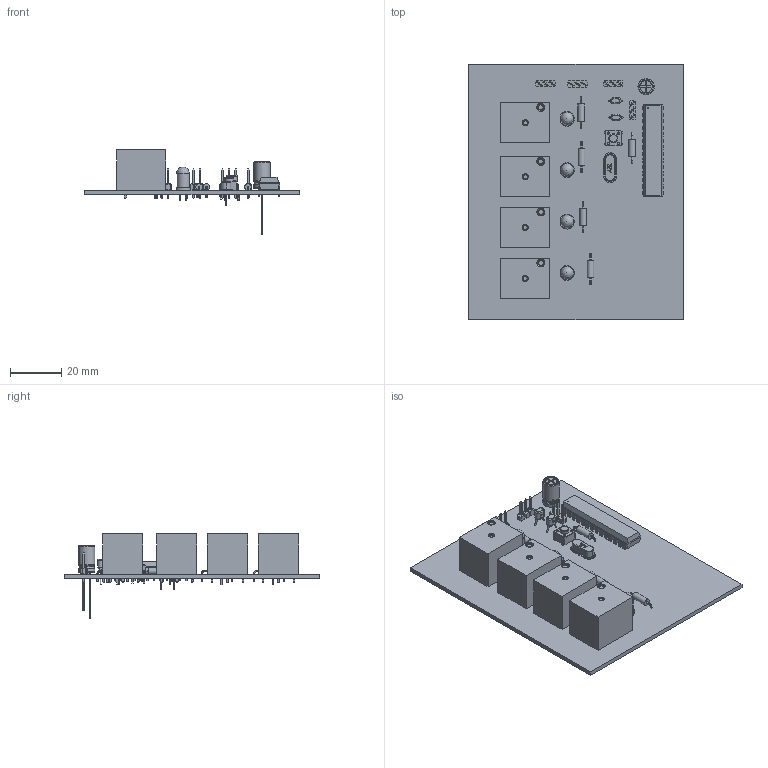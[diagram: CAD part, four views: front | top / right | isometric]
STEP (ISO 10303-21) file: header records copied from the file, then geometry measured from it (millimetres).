
FILE_DESCRIPTION(('Open CASCADE Model'),'2;1');
FILE_NAME('Open CASCADE Shape Model','2024-05-14T17:26:20',('Author'),( 'Open CASCADE'),'Open CASCADE STEP processor 7.5','Open CASCADE 7.5' ,'Unknown');
FILE_SCHEMA(('AUTOMOTIVE_DESIGN { 1 0 10303 214 1 1 1 1 }'));
Length unit declared in the file: millimetre
Products named in the file (47): PCB; Board; Open CASCADE STEP translator 7.5 1.1.1; R2; 6257745280; R5; R4; R3; D2; Diode_Vishay_Semiconductor_TSFF5210_eec; TEIL1; TEIL2; Vishay; D4; D3; D1; 10uF; 6115480544; Y1; 6115479344; U1; 6087853936; SW1; 6087850976; R1; 6115480384; K4; 6115480304; K3; K2; K1; J4; 6115482224; 68000 gold body_03; pin^68000 Gold; J3; 6087848976; J2; J1; C2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
Assembly tree (62 placements, depth 4):
  PCB
    Board
      Open CASCADE STEP translator 7.5 1.1.1
    R2
      6257745280
    R5
      6257745280
    R4
      6257745280
    R3
      6257745280
    D2
      Diode_Vishay_Semiconductor_TSFF5210_eec
        TEIL1
        TEIL2
        Vishay
    D4
      Diode_Vishay_Semiconductor_TSFF5210_eec
        TEIL1
        TEIL2
        Vishay
    D3
      Diode_Vishay_Semiconductor_TSFF5210_eec
        TEIL1
        TEIL2
        Vishay
    D1
      Diode_Vishay_Semiconductor_TSFF5210_eec
        TEIL1
        TEIL2
        Vishay
    10uF
      6115480544
    Y1
      6115479344
    U1
      6087853936
    SW1
      6087850976
    R1
      6115480384
    K4
      6115480304
    K3
      6115480304
    K2
      6115480304
    K1
      6115480304
    J4
      6115482224
        68000 gold body_03
        pin^68000 Gold  x3
    J3
      6087848976
        68000 gold body_03
        pin^68000 Gold  x3
    J2
      6087848976
        68000 gold body_03
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Bounding box: 83.43 x 99.19 x 32.8 mm (x, y, z)
Volume: 35895 mm3; surface area: 28590.9 mm2
Topology: 155 solids, 155 shells, 2363 faces, 5762 edges, 3771 vertices
Faces by surface type: plane 1565, cylinder 367, bspline 321, torus 94, cone 16
Full cylindrical faces by diameter (mm): 0.374 x1, 0.5 x12, 2.616 x5, 5 x4
Entity records: 44650 total; most frequent: CARTESIAN_POINT 10147, ORIENTED_EDGE 6298, DIRECTION 5847, EDGE_CURVE 3149, LINE 2301, VECTOR 2301, VERTEX_POINT 2074, AXIS2_PLACEMENT_3D 1773
